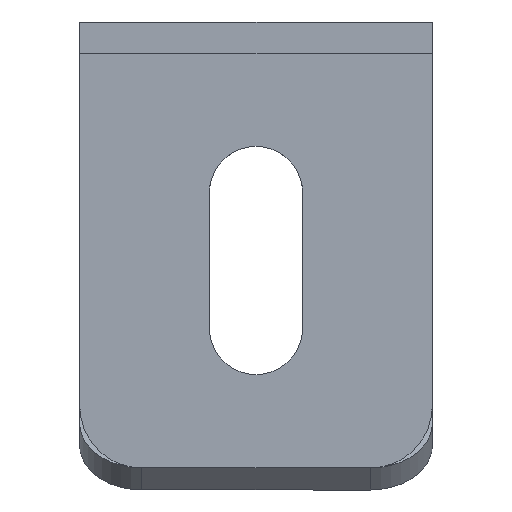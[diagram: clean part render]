
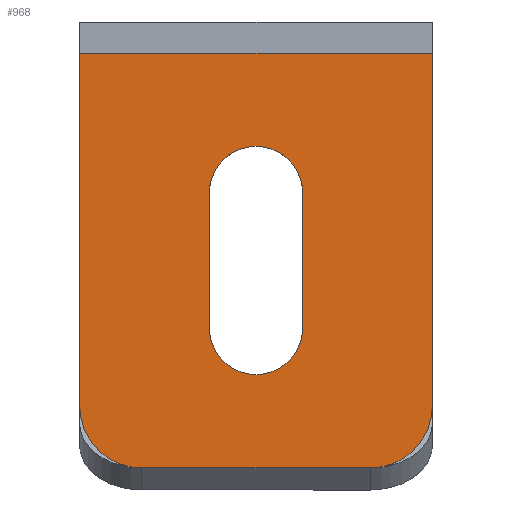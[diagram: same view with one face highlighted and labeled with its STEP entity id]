
A CAD part, top view. The second image highlights one B-rep face of the part: STEP entity #968.
In plain terms, the highlighted planar face has unit normal (0, 0, 1).
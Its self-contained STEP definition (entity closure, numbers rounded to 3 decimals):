
#1 = CIRCLE ( 'NONE', #560, 4.5 ) ;
#14 = CARTESIAN_POINT ( 'NONE',  ( -31.615, 13.623, 3. ) ) ;
#15 = LINE ( 'NONE', #334, #1008 ) ;
#29 = LINE ( 'NONE', #213, #422 ) ;
#55 = DIRECTION ( 'NONE',  ( 0., 0., 1. ) ) ;
#62 = LINE ( 'NONE', #296, #883 ) ;
#66 = CARTESIAN_POINT ( 'NONE',  ( -31.615, 13.623, 3. ) ) ;
#98 = DIRECTION ( 'NONE',  ( 0., 0., 1. ) ) ;
#102 = CIRCLE ( 'NONE', #717, 4.5 ) ;
#109 = ORIENTED_EDGE ( 'NONE', *, *, #412, .F. ) ;
#114 = EDGE_CURVE ( 'NONE', #897, #192, #562, .T. ) ;
#138 = AXIS2_PLACEMENT_3D ( 'NONE', #533, #55, #612 ) ;
#139 = EDGE_CURVE ( 'NONE', #351, #966, #62, .T. ) ;
#142 = CIRCLE ( 'NONE', #138, 6. ) ;
#145 = CARTESIAN_POINT ( 'NONE',  ( -14.615, 0.123, 3. ) ) ;
#146 = CARTESIAN_POINT ( 'NONE',  ( -10.115, 0.123, 3. ) ) ;
#149 = DIRECTION ( 'NONE',  ( 0., 0., 1. ) ) ;
#179 = VECTOR ( 'NONE', #870, 1000. ) ;
#192 = VERTEX_POINT ( 'NONE', #14 ) ;
#195 = FACE_BOUND ( 'NONE', #592, .T. ) ;
#201 = ORIENTED_EDGE ( 'NONE', *, *, #264, .F. ) ;
#213 = CARTESIAN_POINT ( 'NONE',  ( -31.615, 13.623, 3. ) ) ;
#218 = DIRECTION ( 'NONE',  ( 0., 0., 1. ) ) ;
#220 = DIRECTION ( 'NONE',  ( 1., 0., 0. ) ) ;
#234 = EDGE_CURVE ( 'NONE', #255, #442, #858, .T. ) ;
#241 = ORIENTED_EDGE ( 'NONE', *, *, #403, .T. ) ;
#255 = VERTEX_POINT ( 'NONE', #738 ) ;
#264 = EDGE_CURVE ( 'NONE', #901, #996, #15, .T. ) ;
#283 = ORIENTED_EDGE ( 'NONE', *, *, #234, .T. ) ;
#287 = VECTOR ( 'NONE', #956, 1000. ) ;
#289 = CARTESIAN_POINT ( 'NONE',  ( -3.615, -26.377, 3. ) ) ;
#295 = DIRECTION ( 'NONE',  ( 0., -1., 0. ) ) ;
#296 = CARTESIAN_POINT ( 'NONE',  ( -10.115, 0.123, 3. ) ) ;
#312 = VERTEX_POINT ( 'NONE', #289 ) ;
#319 = ORIENTED_EDGE ( 'NONE', *, *, #775, .T. ) ;
#334 = CARTESIAN_POINT ( 'NONE',  ( -19.115, 0.123, 3. ) ) ;
#351 = VERTEX_POINT ( 'NONE', #369 ) ;
#369 = CARTESIAN_POINT ( 'NONE',  ( -10.115, -12.877, 3. ) ) ;
#375 = DIRECTION ( 'NONE',  ( 0., 1., 0. ) ) ;
#384 = CARTESIAN_POINT ( 'NONE',  ( 2.385, 13.623, 3. ) ) ;
#396 = ORIENTED_EDGE ( 'NONE', *, *, #982, .T. ) ;
#403 = EDGE_CURVE ( 'NONE', #192, #255, #29, .T. ) ;
#412 = EDGE_CURVE ( 'NONE', #996, #351, #1, .T. ) ;
#419 = DIRECTION ( 'NONE',  ( 0., -1., 0. ) ) ;
#420 = FACE_OUTER_BOUND ( 'NONE', #569, .T. ) ;
#422 = VECTOR ( 'NONE', #295, 1000. ) ;
#433 = EDGE_CURVE ( 'NONE', #966, #901, #102, .T. ) ;
#442 = VERTEX_POINT ( 'NONE', #545 ) ;
#458 = DIRECTION ( 'NONE',  ( -1., 0., 0. ) ) ;
#499 = ORIENTED_EDGE ( 'NONE', *, *, #433, .F. ) ;
#505 = LINE ( 'NONE', #952, #287 ) ;
#533 = CARTESIAN_POINT ( 'NONE',  ( -3.615, -20.377, 3. ) ) ;
#545 = CARTESIAN_POINT ( 'NONE',  ( -25.615, -26.377, 3. ) ) ;
#551 = CARTESIAN_POINT ( 'NONE',  ( -25.615, -20.377, 3. ) ) ;
#556 = ORIENTED_EDGE ( 'NONE', *, *, #114, .T. ) ;
#560 = AXIS2_PLACEMENT_3D ( 'NONE', #701, #218, #781 ) ;
#562 = LINE ( 'NONE', #66, #900 ) ;
#566 = EDGE_CURVE ( 'NONE', #442, #312, #505, .T. ) ;
#569 = EDGE_LOOP ( 'NONE', ( #241, #283, #825, #319, #396, #556 ) ) ;
#575 = CARTESIAN_POINT ( 'NONE',  ( -25.615, -20.377, 3. ) ) ;
#592 = EDGE_LOOP ( 'NONE', ( #201, #499, #630, #109 ) ) ;
#612 = DIRECTION ( 'NONE',  ( 1., 0., 0. ) ) ;
#630 = ORIENTED_EDGE ( 'NONE', *, *, #139, .F. ) ;
#656 = DIRECTION ( 'NONE',  ( 1., 0., 0. ) ) ;
#675 = AXIS2_PLACEMENT_3D ( 'NONE', #551, #149, #709 ) ;
#682 = AXIS2_PLACEMENT_3D ( 'NONE', #575, #98, #656 ) ;
#701 = CARTESIAN_POINT ( 'NONE',  ( -14.615, -12.877, 3. ) ) ;
#704 = DIRECTION ( 'NONE',  ( 0., 0., 1. ) ) ;
#709 = DIRECTION ( 'NONE',  ( 1., 0., 0. ) ) ;
#717 = AXIS2_PLACEMENT_3D ( 'NONE', #145, #704, #220 ) ;
#738 = CARTESIAN_POINT ( 'NONE',  ( -31.615, -20.377, 3. ) ) ;
#775 = EDGE_CURVE ( 'NONE', #312, #947, #142, .T. ) ;
#781 = DIRECTION ( 'NONE',  ( 1., 0., 0. ) ) ;
#785 = CARTESIAN_POINT ( 'NONE',  ( -19.115, 0.123, 3. ) ) ;
#790 = PLANE ( 'NONE',  #675 ) ;
#796 = CARTESIAN_POINT ( 'NONE',  ( -19.115, -12.877, 3. ) ) ;
#825 = ORIENTED_EDGE ( 'NONE', *, *, #566, .T. ) ;
#840 = LINE ( 'NONE', #946, #179 ) ;
#858 = CIRCLE ( 'NONE', #682, 6. ) ;
#870 = DIRECTION ( 'NONE',  ( 0., 1., 0. ) ) ;
#883 = VECTOR ( 'NONE', #375, 1000. ) ;
#897 = VERTEX_POINT ( 'NONE', #384 ) ;
#900 = VECTOR ( 'NONE', #458, 1000. ) ;
#901 = VERTEX_POINT ( 'NONE', #785 ) ;
#946 = CARTESIAN_POINT ( 'NONE',  ( 2.385, 13.623, 3. ) ) ;
#947 = VERTEX_POINT ( 'NONE', #1012 ) ;
#952 = CARTESIAN_POINT ( 'NONE',  ( -25.615, -26.377, 3. ) ) ;
#956 = DIRECTION ( 'NONE',  ( 1., 0., 0. ) ) ;
#966 = VERTEX_POINT ( 'NONE', #146 ) ;
#968 = ADVANCED_FACE ( 'NONE', ( #420, #195 ), #790, .T. ) ;
#982 = EDGE_CURVE ( 'NONE', #947, #897, #840, .T. ) ;
#996 = VERTEX_POINT ( 'NONE', #796 ) ;
#1008 = VECTOR ( 'NONE', #419, 1000. ) ;
#1012 = CARTESIAN_POINT ( 'NONE',  ( 2.385, -20.377, 3. ) ) ;
